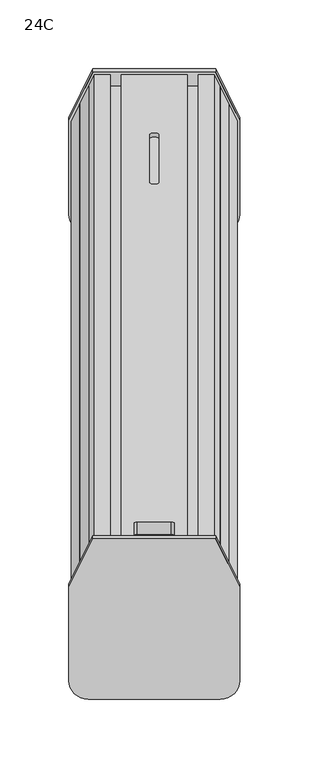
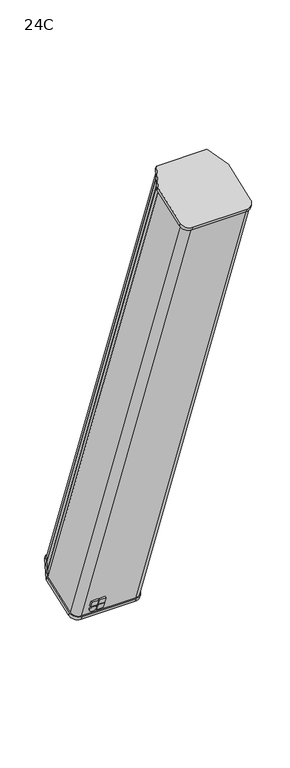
"""IFC4 building model written with IfcOpenShell, lengths in millimetres: proxy geometry, d&b xC-Series 24C Column : 24C."""

import ifcopenshell
import ifcopenshell.guid

model = None  # the IFC model being written
_history = None  # IfcOwnerHistory: only IFC2X3 demands one
_inside = {}  # id of a spatial element -> (the spatial element, [elements in it])
_under = {}  # id of a project, library or spatial element -> (it, [spatial elements below it])
_declared = {}  # id of a project -> (the project, [libraries it declares])
_typed = {}  # id of a type object -> (the type object, [elements of that type])
_made_of = {}  # id of a material, layer set ... -> (it, [elements and type objects made of it])


def new_model(schema):
    """Start an empty IFC model of exactly this schema.

    Asked for "IFC4X3", IfcOpenShell would pick the latest addendum, in which some entities
    have other attributes; the version numbers below select the first issue.
    IFC2X3 requires an IfcOwnerHistory on every rooted entity: one is made here for all.
    """
    global model, _history
    if schema == "IFC4X3":
        model = ifcopenshell.file(schema_version=(4, 3, 0, 0))
    else:
        model = ifcopenshell.file(schema=schema)
    _inside.clear()
    _under.clear()
    _declared.clear()
    _typed.clear()
    _made_of.clear()
    _history = None
    if model.schema == "IFC2X3":
        org = make("IfcOrganization", Name="unknown")
        user = make(
            "IfcPersonAndOrganization",
            ThePerson=make("IfcPerson", FamilyName="unknown"),
            TheOrganization=org,
        )
        app = make(
            "IfcApplication",
            ApplicationDeveloper=org,
            Version="unknown",
            ApplicationFullName="unknown",
            ApplicationIdentifier="unknown",
        )
        _history = make(
            "IfcOwnerHistory",
            OwningUser=user,
            OwningApplication=app,
            ChangeAction="ADDED",
            CreationDate=0,
        )
    return model


def make(cls, **values):
    """One entity of the class cls with the attributes given. An attribute that is None is left unset."""
    return model.create_entity(
        cls, **{name: value for name, value in values.items() if value is not None}
    )


def rooted(cls, **values):
    """An entity with a GlobalId (a new one), such as an element, a storey or a relation."""
    return make(cls, GlobalId=ifcopenshell.guid.new(), OwnerHistory=_history, **values)


def si_unit(unit_type, name, prefix=None):
    """IfcSIUnit, for example si_unit("LENGTHUNIT", "METRE", prefix="MILLI")."""
    return make("IfcSIUnit", UnitType=unit_type, Prefix=prefix, Name=name)


def assignment(units):
    """IfcUnitAssignment: the units of a project."""
    return None if units is None else make("IfcUnitAssignment", Units=units)


def point(xyz):
    """IfcCartesianPoint."""
    return None if xyz is None else make("IfcCartesianPoint", Coordinates=xyz)


def direction(xyz):
    """IfcDirection."""
    return None if xyz is None else make("IfcDirection", DirectionRatios=xyz)


def frame(location, z_axis=None, x_axis=None):
    """IfcAxis2Placement3D, a coordinate frame: its origin and axes. An axis left out is left unset."""
    return make(
        "IfcAxis2Placement3D",
        Location=point(location),
        Axis=direction(z_axis),
        RefDirection=direction(x_axis),
    )


def frame_2d(location, x_axis=None):
    """IfcAxis2Placement2D, a coordinate frame in the plane: its origin and x axis."""
    return make(
        "IfcAxis2Placement2D", Location=point(location), RefDirection=direction(x_axis)
    )


def origin():
    """The frame at (0, 0, 0) with its axes left unset."""
    return frame((0.0, 0.0, 0.0))


def place(relative_to, where):
    """IfcLocalPlacement: puts the frame where relative to a parent placement (None: the world)."""
    return make(
        "IfcLocalPlacement", PlacementRelTo=relative_to, RelativePlacement=where
    )


def context(
    kind, dimensions, precision=None, world=None, true_north=None, identifier=None
):
    """IfcGeometricRepresentationContext, for example the 3D "Model" context."""
    return make(
        "IfcGeometricRepresentationContext",
        ContextIdentifier=identifier,
        ContextType=kind,
        CoordinateSpaceDimension=dimensions,
        Precision=precision,
        WorldCoordinateSystem=world,
        TrueNorth=true_north,
    )


def project(units=None, contexts=None):
    """IfcProject with its units and contexts."""
    return rooted(
        "IfcProject",
        Name="project",
        RepresentationContexts=contexts,
        UnitsInContext=assignment(units),
    )


def spatial(cls, under=None, at=None, **own):
    """A site, building, storey or space (cls), placed at a placement, below another one or the project."""
    s = rooted(cls, ObjectPlacement=at, **own)
    if under is not None:
        _under.setdefault(under.id(), (under, []))[1].append(s)
    return s


def polyline(points):
    """IfcPolyline through the points."""
    return make("IfcPolyline", Points=[point(p) for p in points])


def circle_curve(where, radius):
    """IfcCircle in the frame where."""
    return make("IfcCircle", Position=where, Radius=radius)


def trimmed(basis, trim1, trim2, sense, master):
    """IfcTrimmedCurve: the piece of a basis curve between two trims."""
    return make(
        "IfcTrimmedCurve",
        BasisCurve=basis,
        Trim1=trim1,
        Trim2=trim2,
        SenseAgreement=sense,
        MasterRepresentation=master,
    )


def segment(curve, same_sense, transition):
    """IfcCompositeCurveSegment."""
    return make(
        "IfcCompositeCurveSegment",
        Transition=transition,
        SameSense=same_sense,
        ParentCurve=curve,
    )


def composite_curve(segments, self_intersect=None):
    """IfcCompositeCurve: segments joined end to end."""
    return make("IfcCompositeCurve", Segments=segments, SelfIntersect=self_intersect)


def outline(outer, holes=None, kind="AREA"):
    """IfcArbitraryClosedProfileDef: a profile drawn as a closed curve; with holes, ...WithVoids."""
    if holes is None:
        return make("IfcArbitraryClosedProfileDef", ProfileType=kind, OuterCurve=outer)
    return make(
        "IfcArbitraryProfileDefWithVoids",
        ProfileType=kind,
        OuterCurve=outer,
        InnerCurves=holes,
    )


def extrude(swept, where, along, depth):
    """IfcExtrudedAreaSolid: the profile swept, set in the frame where, extruded along a direction by depth."""
    return make(
        "IfcExtrudedAreaSolid",
        SweptArea=swept,
        Position=where,
        ExtrudedDirection=direction(along),
        Depth=depth,
    )


def shape(context_of_items, identifier, shape_type, items):
    """IfcShapeRepresentation: the items that make up one representation, for example the "Body"."""
    return make(
        "IfcShapeRepresentation",
        ContextOfItems=context_of_items,
        RepresentationIdentifier=identifier,
        RepresentationType=shape_type,
        Items=items,
    )


def source(mapping_origin, context_of_items, identifier, shape_type, items):
    """IfcRepresentationMap: a shape defined once, which mapped items show again and again."""
    return make(
        "IfcRepresentationMap",
        MappingOrigin=mapping_origin,
        MappedRepresentation=shape(context_of_items, identifier, shape_type, items),
    )


def transform(
    local_origin,
    x_axis=None,
    y_axis=None,
    z_axis=None,
    scale=None,
    scale2=None,
    scale3=None,
    uniform=True,
):
    """IfcCartesianTransformationOperator3D, or its non-uniform kind. x_axis, y_axis, z_axis: its Axis1, 2, 3."""
    if uniform:
        return make(
            "IfcCartesianTransformationOperator3D",
            Axis1=direction(x_axis),
            Axis2=direction(y_axis),
            LocalOrigin=point(local_origin),
            Scale=scale,
            Axis3=direction(z_axis),
        )
    return make(
        "IfcCartesianTransformationOperator3DnonUniform",
        Axis1=direction(x_axis),
        Axis2=direction(y_axis),
        LocalOrigin=point(local_origin),
        Scale=scale,
        Axis3=direction(z_axis),
        Scale2=scale2,
        Scale3=scale3,
    )


def mapped(mapping_source, mapping_target):
    """IfcMappedItem: shows the shape of a source again, moved by a transform."""
    return make(
        "IfcMappedItem", MappingSource=mapping_source, MappingTarget=mapping_target
    )


def made_of(thing, what):
    """Note that an element or type object is made of a material, layer set ...; save() writes the relation."""
    if what is not None:
        _made_of.setdefault(what.id(), (what, []))[1].append(thing)
    return thing


def element(
    cls,
    number,
    at=None,
    inside=None,
    cuts=None,
    type_object=None,
    material=None,
    context=None,
    identifier="Body",
    shape_type=None,
    held_by="IfcProductDefinitionShape",
    body=None,
    shapes=None,
    **own,
):
    """One element of the class cls, such as IfcWall. Its Tag is "e" and its number.

    at: its placement. inside: the storey or other place that contains it. cuts: it is an
    opening in that element (IfcRelVoidsElement). A single representation is given by context,
    identifier, shape_type and body (its items); several are given by shapes. held_by: the class
    of the entity that holds the representations. save() writes the other relations.
    """
    e = rooted(cls, Tag="e%d" % number, ObjectPlacement=at, **own)
    if body is not None:
        shapes = [shape(context, identifier, shape_type, body)]
    if shapes is not None:
        e.Representation = make(held_by, Representations=shapes)
    if inside is not None:
        _inside.setdefault(inside.id(), (inside, []))[1].append(e)
    if cuts is not None:
        rooted(
            "IfcRelVoidsElement", RelatingBuildingElement=cuts, RelatedOpeningElement=e
        )
    if type_object is not None:
        _typed.setdefault(type_object.id(), (type_object, []))[1].append(e)
    return made_of(e, material)


def aggregate(whole, parts):
    """IfcRelAggregates: a whole, such as a stair, and the parts it consists of."""
    return rooted("IfcRelAggregates", RelatingObject=whole, RelatedObjects=parts)


def save(model, path):
    """Write the relations noted so far, then the file.

    IfcRelAggregates (storeys below a building ...), IfcRelContainedInSpatialStructure (elements
    in a storey), IfcRelDefinesByType, IfcRelAssociatesMaterial and IfcRelDeclares: one each for
    every whole, place, type object, material and project.
    """
    for whole, parts in _under.values():
        aggregate(whole, parts)
    for where, things in _inside.values():
        rooted(
            "IfcRelContainedInSpatialStructure",
            RelatedElements=things,
            RelatingStructure=where,
        )
    for kind, things in _typed.values():
        rooted("IfcRelDefinesByType", RelatedObjects=things, RelatingType=kind)
    for what, things in _made_of.values():
        rooted("IfcRelAssociatesMaterial", RelatedObjects=things, RelatingMaterial=what)
    for by, libraries in _declared.values():
        rooted("IfcRelDeclares", RelatingContext=by, RelatedDefinitions=libraries)
    model.write(path)


def plane_surface(at):
    """IfcPlane: the flat surface through the origin of the frame at, square to its z axis."""
    return make("IfcPlane", Position=at)


def cylinder_surface(at, radius):
    """IfcCylindricalSurface: all points at the distance radius from the z axis of the frame at."""
    return make("IfcCylindricalSurface", Position=at, Radius=radius)


def revolved_surface(curve, axis_point, axis_direction):
    """IfcSurfaceOfRevolution: the curve turned about the line through axis_point along axis_direction."""
    return make(
        "IfcSurfaceOfRevolution",
        SweptCurve=make("IfcArbitraryOpenProfileDef", ProfileType="CURVE", Curve=curve),
        AxisPosition=make("IfcAxis1Placement", Location=point(axis_point), Axis=direction(axis_direction)),
    )


def advanced_brep(points, edges, surfaces, faces):
    """IfcAdvancedBrep: a solid bounded by faces that lie on surfaces and meet in shared edges.

    An edge is (start, end): straight between two places in points (the first is 0);
    or (start, end, curve); or (start, end, curve, False) where it runs against its curve.
    A face is (place in surfaces, loops), or (place, loops, False) where it looks against
    its surface's normal. A loop lists edges by number (the first is 1), with a minus sign
    where the edge is run from its end to its start. The first loop is the outer one.
    """
    corners = [point(p) for p in points]
    vertices = [make("IfcVertexPoint", VertexGeometry=c) for c in corners]
    made = []
    for start, end, *more in edges:
        made.append(
            make(
                "IfcEdgeCurve",
                EdgeStart=vertices[start],
                EdgeEnd=vertices[end],
                EdgeGeometry=more[0] if more else make("IfcPolyline", Points=[corners[start], corners[end]]),
                SameSense=more[1] if len(more) > 1 else True,
            )
        )
    hull = []
    for where, loops, *sense in faces:
        bounds = []
        for j, loop in enumerate(loops):
            ring = [make("IfcOrientedEdge", EdgeElement=made[abs(k) - 1], Orientation=k > 0) for k in loop]
            bounds.append(
                make(
                    "IfcFaceOuterBound" if j == 0 else "IfcFaceBound",
                    Bound=make("IfcEdgeLoop", EdgeList=ring),
                    Orientation=True,
                )
            )
        hull.append(make("IfcAdvancedFace", Bounds=bounds, FaceSurface=surfaces[where], SameSense=sense[0] if sense else True))
    return make("IfcAdvancedBrep", Outer=make("IfcClosedShell", CfsFaces=hull))


def proxy_24c_5c7a62c9(model_context):
    return source(origin(), model_context, "Body", "SolidModel", [
        extrude(outline(polyline([(-2.7, 0.0), (-2.6999999, -2.5), (-17.6861683, -2.5), (-17.6861684, 0.0), (-2.7, 0.0)])), frame((44.4204589, 218.0225325, -445.2859296), z_axis=(0.0, -0.3420201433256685, 0.9396926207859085), x_axis=(-0.4226182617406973, 0.8516507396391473, 0.3099755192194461)), (0.0, 0.0, 1.0), 986.0),
        extrude(outline(polyline([(35.8102677, 82.5855356), (26.1773443, 94.0656066), (28.0924555, 95.6725756), (37.7253788, 84.1925045), (35.8102677, 82.5855356)])), frame((44.4204589, 218.0225325, -445.2859296), z_axis=(0.0, -0.3420201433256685, 0.9396926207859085), x_axis=(-0.4226182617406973, 0.8516507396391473, 0.3099755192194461)), (0.0, 0.0, 1.0), 986.0),
        advanced_brep(
        [(-32.05, -111.9994503, 483.8751757), (-43.601115, -111.9994503, 483.8751757), (-47.8272976, -120.5159577, 480.7754205), (-45.5615282, -121.5087858, 480.4140606), (-51.8949566, -134.2717672, 475.7687153), (-54.1607261, -133.2789391, 476.1300752), (-60.5, -146.0537002, 471.4804424), (-60.5, -213.6855922, 446.8644468), (-48.212132, -225.2324111, 442.6617484), (48.212132, -225.2324111, 442.6617484), (60.5, -213.6855922, 446.8644468), (60.5, -146.0537002, 471.4804424), (54.1607261, -133.2789391, 476.1300752), (51.8949566, -134.2717672, 475.7687153), (45.5615282, -121.5087858, 480.4140606), (47.8272976, -120.5159577, 480.7754205), (43.601115, -111.9994503, 483.8751757), (32.05, -111.9994503, 483.8751757), (32.05, -114.0667747, 483.1227311), (36.2500003, -114.0667747, 483.1227311), (36.2500003, -116.6551253, 482.1806486), (32.2044662, -120.4566838, 480.7969944), (23.7999989, -120.4566838, 480.7969944), (19.7499997, -116.6509294, 482.1821757), (19.7499997, -114.0667747, 483.1227311), (23.95, -114.0667747, 483.1227311), (23.95, -111.9994503, 483.8751757), (15.0, -111.9994503, 483.8751757), (15.0, -121.3963765, 480.4549742), (-15.0, -121.3963765, 480.4549742), (-15.0, -111.9994503, 483.8751757), (-23.95, -111.9994503, 483.8751757), (-23.95, -114.0667747, 483.1227311), (-19.7499997, -114.0667747, 483.1227311), (-19.7499997, -116.6509294, 482.1821757), (-23.7999989, -120.4566838, 480.7969944), (-32.2044662, -120.4566838, 480.7969944), (-36.2500003, -116.6551253, 482.1806486), (-36.2500003, -114.0667747, 483.1227311), (-32.05, -114.0667747, 483.1227311), (-32.05, 225.2324111, -442.6617484), (-32.05, 223.1650866, -443.414193), (-36.2500003, 223.1650866, -443.414193), (-36.2500003, 220.576736, -444.3562755), (-32.2044662, 216.7751775, -445.7399297), (-23.7999989, 216.7751775, -445.7399297), (-19.7499997, 220.5809319, -444.3547484), (-19.7499997, 223.1650866, -443.414193), (-23.95, 223.1650866, -443.414193), (-23.95, 225.2324111, -442.6617484), (23.95, 225.2324111, -442.6617484), (23.95, 223.1650866, -443.414193), (19.7499997, 223.1650866, -443.414193), (19.7499997, 220.5809319, -444.3547484), (23.7999989, 216.7751775, -445.7399297), (32.2044662, 216.7751775, -445.7399297), (36.2500003, 220.576736, -444.3562755), (36.2500003, 223.1650866, -443.414193), (32.05, 223.1650866, -443.414193), (32.05, 225.2324111, -442.6617484), (43.601115, 225.2324111, -442.6617484), (47.8272976, 216.7159037, -445.7615036), (45.5615282, 215.7230755, -446.1228635), (51.8949566, 202.9600941, -450.7682088), (54.1607261, 203.9529223, -450.4068489), (60.5, 191.1781612, -455.0564817), (60.5, 123.5462691, -479.6724773), (48.212132, 111.9994503, -483.8751757), (-48.212132, 111.9994503, -483.8751757), (-60.5, 123.5462691, -479.6724773), (-60.5, 191.1781612, -455.0564817), (-54.1607261, 203.9529223, -450.4068489), (-51.8949566, 202.9600941, -450.7682088), (-45.5615282, 215.7230755, -446.1228635), (-47.8272976, 216.7159037, -445.7615036), (-43.601115, 225.2324111, -442.6617484), (-15.0, -101.2258157, 454.2748581), (-12.5, -100.3707654, 451.9256266), (12.5, -100.3707654, 451.9256266), (15.0, -101.2258157, 454.2748581), (-3.375, 146.7387882, -227.0022919), (-3.375, 181.4538327, -322.381093), (3.375, 181.4538327, -322.381093), (3.375, 146.7387882, -227.0022919), (15.0, -110.622742, 450.8546567), (12.5, -109.7676916, 448.5054251), (-12.5, -109.7676916, 448.5054251), (-15.0, -110.622742, 450.8546567), (-3.375, 178.3998317, -323.4926584), (-3.375, 143.6847872, -228.1138574), (3.375, 143.6847872, -228.1138574), (3.375, 178.3998317, -323.4926584)],
        [
            (0, 1),
            (1, 2),
            (2, 3),
            (3, 4),
            (4, 5),
            (5, 6),
            (6, 7),
            (7, 8, circle_curve(frame((-48.212132, -213.6855922, 446.8644468), z_axis=(0.0, -0.3420201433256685, 0.9396926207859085), x_axis=(-1.0, 0.0, 0.0)), 12.287868)),
            (8, 9),
            (9, 10, circle_curve(frame((48.212132, -213.6855922, 446.8644468), z_axis=(0.0, -0.3420201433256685, 0.9396926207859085), x_axis=(-1.0, 0.0, 0.0)), 12.287868)),
            (10, 11),
            (11, 12),
            (12, 13),
            (13, 14),
            (14, 15),
            (15, 16),
            (16, 17),
            (17, 18),
            (18, 19),
            (19, 20),
            (20, 21),
            (21, 22),
            (22, 23),
            (23, 24),
            (24, 25),
            (25, 26),
            (26, 27),
            (27, 28),
            (28, 29),
            (29, 30),
            (30, 31),
            (31, 32),
            (32, 33),
            (33, 34),
            (34, 35),
            (35, 36),
            (36, 37),
            (37, 38),
            (38, 39),
            (39, 0),
            (40, 41),
            (41, 42),
            (42, 43),
            (43, 44),
            (44, 45),
            (45, 46),
            (46, 47),
            (47, 48),
            (48, 49),
            (49, 50),
            (50, 51),
            (51, 52),
            (52, 53),
            (53, 54),
            (54, 55),
            (55, 56),
            (56, 57),
            (57, 58),
            (58, 59),
            (59, 60),
            (60, 61),
            (61, 62),
            (62, 63),
            (63, 64),
            (64, 65),
            (65, 66),
            (66, 67, circle_curve(frame((48.212132, 123.5462691, -479.6724773), z_axis=(0.0, 0.3420201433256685, -0.9396926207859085), x_axis=(-1.0, 0.0, 0.0)), 12.287868)),
            (67, 68),
            (68, 69, circle_curve(frame((-48.212132, 123.5462691, -479.6724773), z_axis=(0.0, 0.3420201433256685, -0.9396926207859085), x_axis=(-1.0, 0.0, 0.0)), 12.287868)),
            (69, 70),
            (70, 71),
            (71, 72),
            (72, 73),
            (73, 74),
            (74, 75),
            (75, 40),
            (0, 40),
            (75, 1),
            (6, 70),
            (69, 7),
            (68, 8),
            (67, 9),
            (66, 10),
            (65, 11),
            (64, 12),
            (16, 60),
            (59, 17),
            (58, 18),
            (57, 19),
            (56, 20),
            (55, 21),
            (54, 22),
            (53, 23),
            (52, 24),
            (51, 25),
            (50, 26),
            (49, 31),
            (30, 76),
            (76, 77, circle_curve(frame((-12.5, -101.2258157, 454.2748581), z_axis=(0.0, -0.9396926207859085, -0.3420201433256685), x_axis=(-1.0, 0.0, 0.0)), 2.5)),
            (77, 78),
            (78, 79, circle_curve(frame((12.5, -101.2258157, 454.2748581), z_axis=(0.0, -0.9396926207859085, -0.3420201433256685), x_axis=(-1.0, 0.0, 0.0)), 2.5)),
            (79, 27),
            (80, 81),
            (81, 82, circle_curve(frame((0.0, 181.4538327, -322.381093), z_axis=(0.0, -0.9396926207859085, -0.3420201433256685), x_axis=(-1.0, 0.0, 0.0)), 3.375)),
            (82, 83),
            (83, 80, circle_curve(frame((0.0, 146.7387882, -227.0022919), z_axis=(0.0, -0.9396926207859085, -0.3420201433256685), x_axis=(-1.0, 0.0, 0.0)), 3.375)),
            (48, 32),
            (47, 33),
            (46, 34),
            (45, 35),
            (44, 36),
            (43, 37),
            (42, 38),
            (41, 39),
            (84, 85, circle_curve(frame((12.5, -110.622742, 450.8546567), z_axis=(0.0, 0.9396926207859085, 0.3420201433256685), x_axis=(-1.0, 0.0, 0.0)), 2.5)),
            (85, 86),
            (86, 87, circle_curve(frame((-12.5, -110.622742, 450.8546567), z_axis=(0.0, 0.9396926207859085, 0.3420201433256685), x_axis=(-1.0, 0.0, 0.0)), 2.5)),
            (87, 29),
            (28, 84),
            (84, 79),
            (78, 85),
            (77, 86),
            (76, 87),
            (88, 89),
            (89, 90, circle_curve(frame((0.0, 143.6847872, -228.1138574), z_axis=(0.0, 0.9396926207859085, 0.3420201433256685), x_axis=(-1.0, 0.0, 0.0)), 3.375)),
            (90, 91),
            (91, 88, circle_curve(frame((0.0, 178.3998317, -323.4926584), z_axis=(0.0, 0.9396926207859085, 0.3420201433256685), x_axis=(-1.0, 0.0, 0.0)), 3.375)),
            (88, 81),
            (80, 89),
            (83, 90),
            (82, 91),
            (63, 13),
            (62, 14),
            (61, 15),
            (74, 2),
            (73, 3),
            (72, 4),
            (71, 5),
        ],
        [
            plane_surface(frame((-42.0084394, -111.9994503, 483.8751757), z_axis=(0.0, -0.3420201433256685, 0.9396926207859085), x_axis=(-1.0, 0.0, 0.0))),
            plane_surface(frame((-42.0084394, 225.2324111, -442.6617484), z_axis=(0.0, 0.3420201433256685, -0.9396926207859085), x_axis=(1.0, 0.0, 0.0))),
            plane_surface(frame((-32.05, -111.9994503, 483.8751757), z_axis=(0.0, 0.9396926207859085, 0.3420201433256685), x_axis=(0.0, 0.3420201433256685, -0.9396926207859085))),
            plane_surface(frame((-60.5, -146.0537002, 471.4804424), z_axis=(-1.0, 0.0, 0.0), x_axis=(0.0, 0.3420201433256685, -0.9396926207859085))),
            cylinder_surface(frame((-48.212132, 123.5462691, -479.6724773), z_axis=(0.0, -0.3420201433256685, 0.9396926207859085), x_axis=(-1.0, 0.0, 0.0)), 12.287868),
            plane_surface(frame((-48.212132, -225.2324111, 442.6617484), z_axis=(0.0, -0.9396926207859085, -0.3420201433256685), x_axis=(0.0, 0.3420201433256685, -0.9396926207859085))),
            cylinder_surface(frame((48.212132, 123.5462691, -479.6724773), z_axis=(0.0, -0.3420201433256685, 0.9396926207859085), x_axis=(-1.0, 0.0, 0.0)), 12.287868),
            plane_surface(frame((60.5, -213.6855922, 446.8644468), z_axis=(1.0, 0.0, 0.0), x_axis=(0.0, 0.3420201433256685, -0.9396926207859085))),
            plane_surface(frame((60.5, -146.0537002, 471.4804424), z_axis=(0.9063077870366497, 0.3971312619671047, 0.14454395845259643), x_axis=(0.0, 0.3420201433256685, -0.9396926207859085))),
            plane_surface(frame((43.601115, -111.9994503, 483.8751757), z_axis=(0.0, 0.9396926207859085, 0.3420201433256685), x_axis=(0.0, 0.3420201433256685, -0.9396926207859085))),
            plane_surface(frame((32.05, -111.9994503, 483.8751757), z_axis=(-1.0, 0.0, 0.0), x_axis=(0.0, 0.3420201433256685, -0.9396926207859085))),
            plane_surface(frame((32.05, -114.0667747, 483.1227311), z_axis=(0.0, -0.9396926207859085, -0.3420201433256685), x_axis=(0.0, 0.3420201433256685, -0.9396926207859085))),
            plane_surface(frame((36.2500003, -114.0667747, 483.1227311), z_axis=(-1.0, 0.0, 0.0), x_axis=(0.0, 0.3420201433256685, -0.9396926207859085))),
            plane_surface(frame((36.2500003, -116.6551253, 482.1806486), z_axis=(-0.707106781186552, 0.66446302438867, 0.24184476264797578), x_axis=(0.0, 0.3420201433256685, -0.9396926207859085))),
            plane_surface(frame((32.2044662, -120.4566838, 480.7969944), z_axis=(0.0, 0.9396926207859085, 0.3420201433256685), x_axis=(0.0, 0.3420201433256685, -0.9396926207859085))),
            plane_surface(frame((23.7999989, -120.4566838, 480.7969944), z_axis=(0.7071067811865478, 0.6644630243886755, 0.24184476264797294), x_axis=(0.0, 0.3420201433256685, -0.9396926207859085))),
            plane_surface(frame((19.7499997, -116.6509294, 482.1821757), z_axis=(1.0, 0.0, 0.0), x_axis=(0.0, 0.3420201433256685, -0.9396926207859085))),
            plane_surface(frame((19.7499997, -114.0667747, 483.1227311), z_axis=(0.0, -0.9396926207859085, -0.3420201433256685), x_axis=(0.0, 0.3420201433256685, -0.9396926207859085))),
            plane_surface(frame((23.95, -114.0667747, 483.1227311), z_axis=(1.0, 0.0, 0.0), x_axis=(0.0, 0.3420201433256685, -0.9396926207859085))),
            plane_surface(frame((23.95, -111.9994503, 483.8751757), z_axis=(0.0, 0.9396926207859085, 0.3420201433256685), x_axis=(0.0, 0.3420201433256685, -0.9396926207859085))),
            plane_surface(frame((-23.95, -111.9994503, 483.8751757), z_axis=(-1.0, 0.0, 0.0), x_axis=(0.0, 0.3420201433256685, -0.9396926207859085))),
            plane_surface(frame((-23.95, -114.0667747, 483.1227311), z_axis=(0.0, -0.9396926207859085, -0.3420201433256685), x_axis=(0.0, 0.3420201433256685, -0.9396926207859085))),
            plane_surface(frame((-19.7499997, -114.0667747, 483.1227311), z_axis=(-1.0, 0.0, 0.0), x_axis=(0.0, 0.3420201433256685, -0.9396926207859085))),
            plane_surface(frame((-19.7499997, -116.6509294, 482.1821757), z_axis=(-0.7071067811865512, 0.6644630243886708, 0.24184476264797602), x_axis=(0.0, 0.3420201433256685, -0.9396926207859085))),
            plane_surface(frame((-23.7999989, -120.4566838, 480.7969944), z_axis=(0.0, 0.9396926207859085, 0.3420201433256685), x_axis=(0.0, 0.3420201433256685, -0.9396926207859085))),
            plane_surface(frame((-32.2044662, -120.4566838, 480.7969944), z_axis=(0.7071067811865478, 0.6644630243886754, 0.2418447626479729), x_axis=(0.0, 0.3420201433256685, -0.9396926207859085))),
            plane_surface(frame((-36.2500003, -116.6551253, 482.1806486), z_axis=(1.0, 0.0, 0.0), x_axis=(0.0, 0.3420201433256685, -0.9396926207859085))),
            plane_surface(frame((-36.2500003, -114.0667747, 483.1227311), z_axis=(0.0, -0.9396926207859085, -0.3420201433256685), x_axis=(0.0, 0.3420201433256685, -0.9396926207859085))),
            plane_surface(frame((-32.05, -114.0667747, 483.1227311), z_axis=(1.0, 0.0, 0.0), x_axis=(0.0, 0.3420201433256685, -0.9396926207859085))),
            plane_surface(frame((10.0, -110.622742, 450.8546567), z_axis=(0.0, 0.9396926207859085, 0.3420201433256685), x_axis=(0.0, 0.3420201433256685, -0.9396926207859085))),
            revolved_surface(polyline([(10.0, -101.22581572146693, 454.27485815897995), (10.0, -110.622742, 450.8546567)]), (12.5, -110.622742, 450.8546567), (0.0, 0.9396926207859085, 0.3420201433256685)),
            plane_surface(frame((12.5, -98.7263033, 452.5241618), z_axis=(0.0, -0.3420201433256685, 0.9396926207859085), x_axis=(0.0, -0.9396926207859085, -0.3420201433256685))),
            revolved_surface(polyline([(-15.0, -101.22581572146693, 454.27485815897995), (-15.0, -110.622742, 450.8546567)]), (-12.5, -110.622742, 450.8546567), (0.0, 0.9396926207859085, 0.3420201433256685)),
            plane_surface(frame((-15.0, -99.5813537, 454.8733934), z_axis=(1.0, 0.0, 0.0), x_axis=(0.0, -0.9396926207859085, -0.3420201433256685))),
            plane_surface(frame((15.0, -110.3549882, 484.4737109), z_axis=(-1.0, 0.0, 0.0), x_axis=(0.0, -0.9396926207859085, -0.3420201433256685))),
            plane_surface(frame((-3.375, 151.6845278, -250.0929642), z_axis=(0.0, 0.9396926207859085, 0.3420201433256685), x_axis=(0.0, 0.3420201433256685, -0.9396926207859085))),
            plane_surface(frame((-3.375, 183.0982948, -321.7825577), z_axis=(1.0, 0.0, 0.0), x_axis=(0.0, -0.9396926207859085, -0.3420201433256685))),
            revolved_surface(polyline([(-3.375, 146.7387882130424, -227.00229193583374), (-3.375, 143.6847872, -228.1138574)]), (0.0, 143.6847872, -228.1138574), (0.0, 0.9396926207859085, 0.3420201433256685)),
            plane_surface(frame((3.375, 148.3832503, -226.4037567), z_axis=(-1.0, 0.0, 0.0), x_axis=(0.0, -0.9396926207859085, -0.3420201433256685))),
            revolved_surface(polyline([(-3.375, 181.45383268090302, -322.3810929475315), (-3.375, 178.3998317, -323.4926584)]), (0.0, 178.3998317, -323.4926584), (0.0, 0.9396926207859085, 0.3420201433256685)),
            plane_surface(frame((54.1607261, -133.2789391, 476.1300752), z_axis=(-0.42261826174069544, 0.851650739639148, 0.3099755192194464), x_axis=(0.0, 0.3420201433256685, -0.9396926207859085))),
            plane_surface(frame((51.8949566, -134.2717672, 475.7687153), z_axis=(0.9063077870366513, 0.39713126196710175, 0.14454395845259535), x_axis=(0.0, 0.3420201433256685, -0.9396926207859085))),
            plane_surface(frame((45.5615282, -121.5087858, 480.4140606), z_axis=(0.4226182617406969, -0.8516507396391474, -0.30997551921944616), x_axis=(0.0, 0.3420201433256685, -0.9396926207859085))),
            plane_surface(frame((47.8272976, -120.5159577, 480.7754205), z_axis=(0.9063077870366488, 0.3971312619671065, 0.1445439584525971), x_axis=(0.0, 0.3420201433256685, -0.9396926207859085))),
            plane_surface(frame((-43.601115, -111.9994503, 483.8751757), z_axis=(-0.9063077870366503, 0.39713126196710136, 0.14454395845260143), x_axis=(0.0, 0.3420201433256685, -0.9396926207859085))),
            plane_surface(frame((-47.8272976, -120.5159577, 480.7754205), z_axis=(-0.42261826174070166, -0.8516507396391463, -0.3099755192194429), x_axis=(0.0, 0.3420201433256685, -0.9396926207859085))),
            plane_surface(frame((-45.5615282, -121.5087858, 480.4140606), z_axis=(-0.9063077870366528, 0.3971312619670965, 0.1445439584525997), x_axis=(0.0, 0.3420201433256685, -0.9396926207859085))),
            plane_surface(frame((-51.8949566, -134.2717672, 475.7687153), z_axis=(0.4226182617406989, 0.8516507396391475, 0.30997551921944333), x_axis=(0.0, 0.3420201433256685, -0.9396926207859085))),
            plane_surface(frame((-54.1607261, -133.2789391, 476.1300752), z_axis=(-0.9063077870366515, 0.39713126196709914, 0.14454395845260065), x_axis=(0.0, 0.3420201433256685, -0.9396926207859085))),
        ],
        [
            (0, [[1, 2, 3, 4, 5, 6, 7, 8, 9, 10, 11, 12, 13, 14, 15, 16, 17, 18, 19, 20, 21, 22, 23, 24, 25, 26, 27, 28, 29, 30, 31, 32, 33, 34, 35, 36, 37, 38, 39, 40]]),
            (1, [[41, 42, 43, 44, 45, 46, 47, 48, 49, 50, 51, 52, 53, 54, 55, 56, 57, 58, 59, 60, 61, 62, 63, 64, 65, 66, 67, 68, 69, 70, 71, 72, 73, 74, 75, 76]]),
            (2, [[-1, 77, -76, 78]]),
            (3, [[-7, 79, -70, 80]]),
            (4, [[-8, -80, -69, 81]]),
            (5, [[-9, -81, -68, 82]]),
            (6, [[-10, -82, -67, 83]]),
            (7, [[-11, -83, -66, 84]]),
            (8, [[-12, -84, -65, 85]]),
            (9, [[-17, 86, -60, 87]]),
            (10, [[-18, -87, -59, 88]]),
            (11, [[-19, -88, -58, 89]]),
            (12, [[-20, -89, -57, 90]]),
            (13, [[-21, -90, -56, 91]]),
            (14, [[-22, -91, -55, 92]]),
            (15, [[-23, -92, -54, 93]]),
            (16, [[-24, -93, -53, 94]]),
            (17, [[-25, -94, -52, 95]]),
            (18, [[-26, -95, -51, 96]]),
            (19, [[-50, 97, -31, 98, 99, 100, 101, 102, -27, -96], [103, 104, 105, 106]]),
            (20, [[-32, -97, -49, 107]]),
            (21, [[-33, -107, -48, 108]]),
            (22, [[-34, -108, -47, 109]]),
            (23, [[-35, -109, -46, 110]]),
            (24, [[-36, -110, -45, 111]]),
            (25, [[-37, -111, -44, 112]]),
            (26, [[-38, -112, -43, 113]]),
            (27, [[-39, -113, -42, 114]]),
            (28, [[-40, -114, -41, -77]]),
            (29, [[115, 116, 117, 118, -29, 119]]),
            (30, [[-115, 120, -101, 121]]),
            (31, [[-116, -121, -100, 122]]),
            (32, [[-117, -122, -99, 123]]),
            (33, [[-118, -123, -98, -30]]),
            (34, [[-119, -28, -102, -120]]),
            (35, [[124, 125, 126, 127]]),
            (36, [[-124, 128, -103, 129]]),
            (37, [[-125, -129, -106, 130]]),
            (38, [[-126, -130, -105, 131]]),
            (39, [[-127, -131, -104, -128]]),
            (40, [[-13, -85, -64, 132]]),
            (41, [[-14, -132, -63, 133]]),
            (42, [[-15, -133, -62, 134]]),
            (43, [[-16, -134, -61, -86]]),
            (44, [[-2, -78, -75, 135]]),
            (45, [[-3, -135, -74, 136]]),
            (46, [[-4, -136, -73, 137]]),
            (47, [[-5, -137, -72, 138]]),
            (48, [[-6, -138, -71, -79]]),
        ],
    ),
        extrude(outline(polyline([(0.0, -11.6666666), (0.0, 0.0), (2.5, 0.0), (2.5, -11.6666666), (0.0, -11.6666666)])), frame((-26.5454654, 102.3745182, -462.5475498), z_axis=(0.0, -0.3420201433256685, 0.9396926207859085), x_axis=(0.0, -0.9396926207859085, -0.3420201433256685)), (0.0, 0.0, 1.0), 11.6666667),
        extrude(outline(polyline([(0.0, -11.6666667), (0.0, 0.0), (2.5, 0.0), (2.5, -11.6666667), (0.0, -11.6666667)])), frame((-13.212132, 102.3745182, -462.5475498), z_axis=(0.0, -0.3420201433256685, 0.9396926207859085), x_axis=(0.0, -0.9396926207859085, -0.3420201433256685)), (0.0, 0.0, 1.0), 11.6666667),
        extrude(outline(polyline([(0.0, -11.6666667), (0.0, 0.0), (2.5, 0.0), (2.5, -11.6666667), (0.0, -11.6666667)])), frame((-13.212132, 106.9347867, -475.0767847), z_axis=(0.0, -0.3420201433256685, 0.9396926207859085), x_axis=(0.0, -0.9396926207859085, -0.3420201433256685)), (0.0, 0.0, 1.0), 11.6666667),
        extrude(outline(composite_curve([segment(trimmed(circle_curve(frame_2d((-0.9849738, -5.8333333)), 5.8333333), [point((-0.9849738, 0.0))], [point((-0.9849738, -11.6666666))], False, "CARTESIAN"), True, "CONTINUOUS"), segment(trimmed(circle_curve(frame_2d((-0.9849738, -5.8333333)), 5.8333333), [point((-0.9849738, -11.6666666))], [point((-0.9849738, 0.0))], False, "CARTESIAN"), True, "CONTINUOUS")], self_intersect=False)), frame((-26.5454654, 102.2535568, -469.5247222), z_axis=(0.0, 0.9396926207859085, 0.3420201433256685), x_axis=(0.0, -0.3420201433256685, 0.9396926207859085)), (0.0, 0.0, 1.0), 2.5),
        extrude(outline(composite_curve([segment(polyline([(235.2985882, 0.0), (252.8326002, -37.6018102), (252.8326002, -109.7500001)]), True, "CONTINUOUS"), segment(trimmed(circle_curve(frame_2d((238.5826002, -109.7500001)), 14.25), [point((252.8326002, -109.7500001))], [point((238.5826002, -124.0))], False, "CARTESIAN"), True, "CONTINUOUS"), segment(polyline([(238.5826002, -124.0), (142.5826002, -124.0)]), True, "CONTINUOUS"), segment(trimmed(circle_curve(frame_2d((142.5826002, -109.7500001)), 14.25), [point((142.5826002, -124.0))], [point((128.3326002, -109.7500001))], False, "CARTESIAN"), True, "CONTINUOUS"), segment(polyline([(128.3326002, -109.7500001), (128.3326002, -37.6018102), (145.8666122, 0.0), (235.2985882, 0.0)]), True, "CONTINUOUS")], self_intersect=False)), frame((-190.5826002, 229.2710142, -448.6410615), z_axis=(0.0, -0.3420201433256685, 0.9396926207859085), x_axis=(1.0, 0.0, 0.0)), (0.0, 0.0, 1.0), 7.0),
        extrude(outline(composite_curve([segment(polyline([(235.2985882, 0.0), (252.8326002, -37.6018101), (252.8326002, -109.75)]), True, "CONTINUOUS"), segment(trimmed(circle_curve(frame_2d((238.5826002, -109.75)), 14.25), [point((252.8326002, -109.75))], [point((238.5826002, -123.9999999))], False, "CARTESIAN"), True, "CONTINUOUS"), segment(polyline([(238.5826002, -123.9999999), (142.5826002, -123.9999999)]), True, "CONTINUOUS"), segment(trimmed(circle_curve(frame_2d((142.5826002, -109.75)), 14.25), [point((142.5826002, -123.9999999))], [point((128.3326002, -109.75))], False, "CARTESIAN"), True, "CONTINUOUS"), segment(polyline([(128.3326002, -109.75), (128.3326002, -37.6018101), (145.8666122, 0.0), (235.2985882, 0.0)]), True, "CONTINUOUS")], self_intersect=False)), frame((-190.5826002, -110.3549882, 484.4737109), z_axis=(0.0, -0.3420201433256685, 0.9396926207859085), x_axis=(1.0, 0.0, 0.0)), (0.0, 0.0, 1.0), 7.0),
    ])


if __name__ == "__main__":
    model = new_model("IFC4")
    model_context = context("Model", 3, world=origin())
    ifc_project = project(units=[si_unit("LENGTHUNIT", "METRE", prefix="MILLI")], contexts=[model_context])
    site = spatial("IfcSite", under=ifc_project)
    building = spatial("IfcBuilding", under=site)
    placement = place(None, origin())
    proxy_24c_shape = proxy_24c_5c7a62c9(model_context)
    element("IfcBuildingElementProxy", 1, Name="d&b xC-Series 24C Column : 24C", ObjectType="d&b xC-Series 24C Column : 24C", at=placement, inside=building, context=model_context, shape_type="MappedRepresentation", body=[
        mapped(proxy_24c_shape, transform((0.0, 0.0, 0.0), x_axis=(1.0, 0.0, 0.0), y_axis=(0.0, 1.0, 0.0), z_axis=(0.0, 0.0, 1.0))),
    ])
    save(model, "model.ifc")
